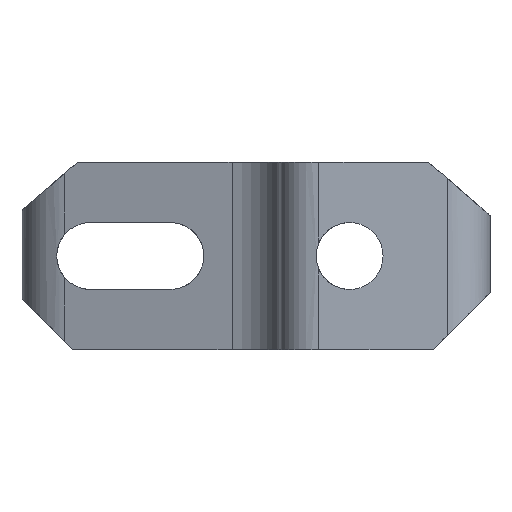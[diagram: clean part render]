
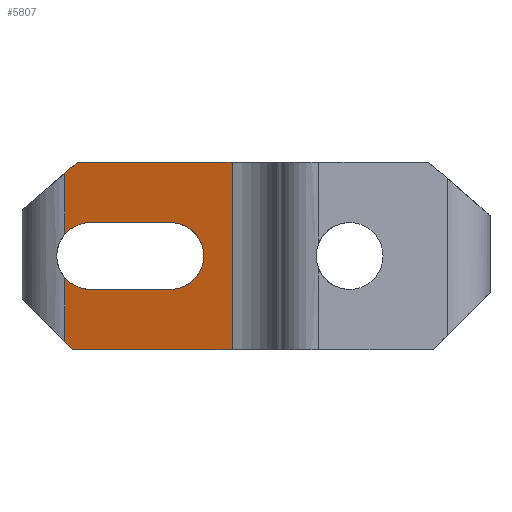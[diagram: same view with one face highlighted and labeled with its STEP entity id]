
A CAD part, left-side view. The second image highlights one B-rep face of the part: STEP entity #5807.
In plain terms, the highlighted planar face has unit normal (-0.96, 0.281, 0).
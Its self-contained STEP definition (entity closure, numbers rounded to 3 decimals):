
#2665=CARTESIAN_POINT('Vertex',(-54.496,15.736,2.124)) ;
#2669=CARTESIAN_POINT('Control Point',(-54.387,16.107,1.768)) ;
#2670=CARTESIAN_POINT('Control Point',(-54.42,15.996,1.9)) ;
#2671=CARTESIAN_POINT('Control Point',(-54.457,15.871,2.019)) ;
#2672=CARTESIAN_POINT('Control Point',(-54.496,15.736,2.124)) ;
#2673=CARTESIAN_POINT('Vertex',(-54.387,16.107,1.768)) ;
#3302=CARTESIAN_POINT('Vertex',(-54.566,15.498,-6.85)) ;
#3305=CARTESIAN_POINT('Line Origine',(-54.476,15.803,-6.546)) ;
#3309=CARTESIAN_POINT('Vertex',(-54.387,16.107,-6.241)) ;
#3380=CARTESIAN_POINT('Vertex',(-54.945,14.202,-2.35)) ;
#3383=CARTESIAN_POINT('Line Origine',(-55.823,11.202,-2.35)) ;
#3387=CARTESIAN_POINT('Vertex',(-56.701,8.202,-2.35)) ;
#3415=CARTESIAN_POINT('Vertex',(-54.387,16.107,-1.468)) ;
#3419=CARTESIAN_POINT('Control Point',(-54.387,16.107,-1.468)) ;
#3420=CARTESIAN_POINT('Control Point',(-54.42,15.996,-1.6)) ;
#3421=CARTESIAN_POINT('Control Point',(-54.457,15.871,-1.719)) ;
#3422=CARTESIAN_POINT('Control Point',(-54.496,15.736,-1.824)) ;
#3423=CARTESIAN_POINT('Vertex',(-54.496,15.736,-1.824)) ;
#5234=CARTESIAN_POINT('Vertex',(-58.049,3.596,7.15)) ;
#5237=CARTESIAN_POINT('Line Origine',(-58.049,3.596,0.15)) ;
#5241=CARTESIAN_POINT('Vertex',(-58.049,3.596,-6.85)) ;
#5703=CARTESIAN_POINT('Axis2P3D Location',(-58.049,3.596,-6.85)) ;
#5708=CARTESIAN_POINT('Line Origine',(-56.307,9.547,-6.85)) ;
#5713=CARTESIAN_POINT('Line Origine',(-56.357,9.378,7.15)) ;
#5717=CARTESIAN_POINT('Vertex',(-54.665,15.16,7.15)) ;
#5720=CARTESIAN_POINT('Line Origine',(-54.526,15.634,6.74)) ;
#5724=CARTESIAN_POINT('Vertex',(-54.387,16.107,6.329)) ;
#5727=CARTESIAN_POINT('Line Origine',(-54.387,16.107,4.049)) ;
#5733=CARTESIAN_POINT('Control Point',(-54.496,15.736,2.124)) ;
#5734=CARTESIAN_POINT('Control Point',(-54.55,15.552,2.267)) ;
#5735=CARTESIAN_POINT('Control Point',(-54.608,15.352,2.388)) ;
#5736=CARTESIAN_POINT('Control Point',(-54.67,15.14,2.484)) ;
#5737=CARTESIAN_POINT('Control Point',(-54.763,14.824,2.586)) ;
#5738=CARTESIAN_POINT('Control Point',(-54.858,14.499,2.635)) ;
#5739=CARTESIAN_POINT('Control Point',(-54.887,14.4,2.645)) ;
#5740=CARTESIAN_POINT('Control Point',(-54.916,14.301,2.65)) ;
#5741=CARTESIAN_POINT('Control Point',(-54.945,14.202,2.65)) ;
#5742=CARTESIAN_POINT('Vertex',(-54.945,14.202,2.65)) ;
#5745=CARTESIAN_POINT('Line Origine',(-55.823,11.202,2.65)) ;
#5749=CARTESIAN_POINT('Vertex',(-56.701,8.202,2.65)) ;
#5753=CARTESIAN_POINT('Control Point',(-56.701,8.202,2.65)) ;
#5754=CARTESIAN_POINT('Control Point',(-56.792,7.89,2.65)) ;
#5755=CARTESIAN_POINT('Control Point',(-56.884,7.579,2.601)) ;
#5756=CARTESIAN_POINT('Control Point',(-56.972,7.276,2.504)) ;
#5757=CARTESIAN_POINT('Control Point',(-57.109,6.807,2.267)) ;
#5758=CARTESIAN_POINT('Control Point',(-57.224,6.414,1.916)) ;
#5759=CARTESIAN_POINT('Control Point',(-57.265,6.274,1.762)) ;
#5760=CARTESIAN_POINT('Control Point',(-57.354,5.97,1.349)) ;
#5761=CARTESIAN_POINT('Control Point',(-57.411,5.777,0.865)) ;
#5762=CARTESIAN_POINT('Control Point',(-57.431,5.707,0.562)) ;
#5763=CARTESIAN_POINT('Control Point',(-57.442,5.671,0.05)) ;
#5764=CARTESIAN_POINT('Control Point',(-57.415,5.763,-0.451)) ;
#5765=CARTESIAN_POINT('Control Point',(-57.399,5.819,-0.645)) ;
#5766=CARTESIAN_POINT('Control Point',(-57.343,6.01,-1.119)) ;
#5767=CARTESIAN_POINT('Control Point',(-57.254,6.312,-1.53)) ;
#5768=CARTESIAN_POINT('Control Point',(-57.19,6.531,-1.747)) ;
#5769=CARTESIAN_POINT('Control Point',(-57.06,6.977,-2.072)) ;
#5770=CARTESIAN_POINT('Control Point',(-56.911,7.486,-2.264)) ;
#5771=CARTESIAN_POINT('Control Point',(-56.842,7.722,-2.321)) ;
#5772=CARTESIAN_POINT('Control Point',(-56.771,7.962,-2.35)) ;
#5773=CARTESIAN_POINT('Control Point',(-56.701,8.202,-2.35)) ;
#5776=CARTESIAN_POINT('Control Point',(-54.496,15.736,-1.824)) ;
#5777=CARTESIAN_POINT('Control Point',(-54.55,15.552,-1.967)) ;
#5778=CARTESIAN_POINT('Control Point',(-54.608,15.352,-2.088)) ;
#5779=CARTESIAN_POINT('Control Point',(-54.67,15.14,-2.184)) ;
#5780=CARTESIAN_POINT('Control Point',(-54.763,14.824,-2.286)) ;
#5781=CARTESIAN_POINT('Control Point',(-54.858,14.499,-2.335)) ;
#5782=CARTESIAN_POINT('Control Point',(-54.887,14.4,-2.345)) ;
#5783=CARTESIAN_POINT('Control Point',(-54.916,14.301,-2.35)) ;
#5784=CARTESIAN_POINT('Control Point',(-54.945,14.202,-2.35)) ;
#5786=CARTESIAN_POINT('Line Origine',(-54.387,16.107,-3.855)) ;
#3306=DIRECTION('Vector Direction',(-0.203,-0.692,-0.692)) ;
#3384=DIRECTION('Vector Direction',(-0.281,-0.96,0.)) ;
#5238=DIRECTION('Vector Direction',(0.,0.,-1.)) ;
#5704=DIRECTION('Axis2P3D Direction',(0.96,-0.281,0.)) ;
#5705=DIRECTION('Axis2P3D XDirection',(0.281,0.96,0.)) ;
#5709=DIRECTION('Vector Direction',(0.281,0.96,0.)) ;
#5714=DIRECTION('Vector Direction',(0.281,0.96,0.)) ;
#5721=DIRECTION('Vector Direction',(0.216,0.738,-0.639)) ;
#5728=DIRECTION('Vector Direction',(0.,0.,1.)) ;
#5746=DIRECTION('Vector Direction',(-0.281,-0.96,0.)) ;
#5787=DIRECTION('Vector Direction',(0.,0.,1.)) ;
#5706=AXIS2_PLACEMENT_3D('Plane Axis2P3D',#5703,#5704,#5705) ;
#5792=ORIENTED_EDGE('',*,*,#3311,.T.) ;
#5793=ORIENTED_EDGE('',*,*,#5712,.F.) ;
#5794=ORIENTED_EDGE('',*,*,#5243,.T.) ;
#5795=ORIENTED_EDGE('',*,*,#5719,.T.) ;
#5796=ORIENTED_EDGE('',*,*,#5726,.T.) ;
#5797=ORIENTED_EDGE('',*,*,#5731,.F.) ;
#5798=ORIENTED_EDGE('',*,*,#2675,.T.) ;
#5799=ORIENTED_EDGE('',*,*,#5744,.T.) ;
#5800=ORIENTED_EDGE('',*,*,#5751,.T.) ;
#5801=ORIENTED_EDGE('',*,*,#5774,.T.) ;
#5802=ORIENTED_EDGE('',*,*,#3389,.F.) ;
#5803=ORIENTED_EDGE('',*,*,#5785,.F.) ;
#5804=ORIENTED_EDGE('',*,*,#3425,.F.) ;
#5805=ORIENTED_EDGE('',*,*,#5790,.F.) ;
#3307=VECTOR('Line Direction',#3306,1.) ;
#3385=VECTOR('Line Direction',#3384,1.) ;
#5239=VECTOR('Line Direction',#5238,1.) ;
#5710=VECTOR('Line Direction',#5709,1.) ;
#5715=VECTOR('Line Direction',#5714,1.) ;
#5722=VECTOR('Line Direction',#5721,1.) ;
#5729=VECTOR('Line Direction',#5728,1.) ;
#5747=VECTOR('Line Direction',#5746,1.) ;
#5788=VECTOR('Line Direction',#5787,1.) ;
#5807=ADVANCED_FACE('Body.6',(#5806),#5707,.F.) ;
#2668=B_SPLINE_CURVE_WITH_KNOTS('',3,(#2669,#2670,#2671,#2672),.UNSPECIFIED.,.F.,.U.,(4,4),(0.,0.744),.UNSPECIFIED.) ;
#3418=B_SPLINE_CURVE_WITH_KNOTS('',3,(#3419,#3420,#3421,#3422),.UNSPECIFIED.,.F.,.U.,(4,4),(0.,0.744),.UNSPECIFIED.) ;
#5732=B_SPLINE_CURVE_WITH_KNOTS('',5,(#5733,#5734,#5735,#5736,#5737,#5738,#5739,#5740,#5741),.UNSPECIFIED.,.F.,.U.,(6,3,6),(0.,1.691,2.421),.UNSPECIFIED.) ;
#5752=B_SPLINE_CURVE_WITH_KNOTS('',5,(#5753,#5754,#5755,#5756,#5757,#5758,#5759,#5760,#5761,#5762,#5763,#5764,#5765,#5766,#5767,#5768,#5769,#5770,#5771,#5772,#5773),.UNSPECIFIED.,.F.,.U.,(6,3,3,3,3,3,6),(0.,2.296,3.792,5.956,7.379,9.572,11.341),.UNSPECIFIED.) ;
#5775=B_SPLINE_CURVE_WITH_KNOTS('',5,(#5776,#5777,#5778,#5779,#5780,#5781,#5782,#5783,#5784),.UNSPECIFIED.,.F.,.U.,(6,3,6),(0.,1.691,2.421),.UNSPECIFIED.) ;
#2675=EDGE_CURVE('',#2674,#2666,#2668,.T.) ;
#3311=EDGE_CURVE('',#3310,#3303,#3308,.T.) ;
#3389=EDGE_CURVE('',#3381,#3388,#3386,.T.) ;
#3425=EDGE_CURVE('',#3416,#3424,#3418,.T.) ;
#5243=EDGE_CURVE('',#5242,#5235,#5240,.F.) ;
#5712=EDGE_CURVE('',#5242,#3303,#5711,.T.) ;
#5719=EDGE_CURVE('',#5235,#5718,#5716,.T.) ;
#5726=EDGE_CURVE('',#5718,#5725,#5723,.T.) ;
#5731=EDGE_CURVE('',#2674,#5725,#5730,.T.) ;
#5744=EDGE_CURVE('',#2666,#5743,#5732,.T.) ;
#5751=EDGE_CURVE('',#5743,#5750,#5748,.T.) ;
#5774=EDGE_CURVE('',#5750,#3388,#5752,.T.) ;
#5785=EDGE_CURVE('',#3424,#3381,#5775,.T.) ;
#5790=EDGE_CURVE('',#3310,#3416,#5789,.T.) ;
#5791=EDGE_LOOP('',(#5792,#5793,#5794,#5795,#5796,#5797,#5798,#5799,#5800,#5801,#5802,#5803,#5804,#5805)) ;
#5806=FACE_OUTER_BOUND('',#5791,.T.) ;
#3308=LINE('Line',#3305,#3307) ;
#3386=LINE('Line',#3383,#3385) ;
#5240=LINE('Line',#5237,#5239) ;
#5711=LINE('Line',#5708,#5710) ;
#5716=LINE('Line',#5713,#5715) ;
#5723=LINE('Line',#5720,#5722) ;
#5730=LINE('Line',#5727,#5729) ;
#5748=LINE('Line',#5745,#5747) ;
#5789=LINE('Line',#5786,#5788) ;
#5707=PLANE('',#5706) ;
#2666=VERTEX_POINT('',#2665) ;
#2674=VERTEX_POINT('',#2673) ;
#3303=VERTEX_POINT('',#3302) ;
#3310=VERTEX_POINT('',#3309) ;
#3381=VERTEX_POINT('',#3380) ;
#3388=VERTEX_POINT('',#3387) ;
#3416=VERTEX_POINT('',#3415) ;
#3424=VERTEX_POINT('',#3423) ;
#5235=VERTEX_POINT('',#5234) ;
#5242=VERTEX_POINT('',#5241) ;
#5718=VERTEX_POINT('',#5717) ;
#5725=VERTEX_POINT('',#5724) ;
#5743=VERTEX_POINT('',#5742) ;
#5750=VERTEX_POINT('',#5749) ;
